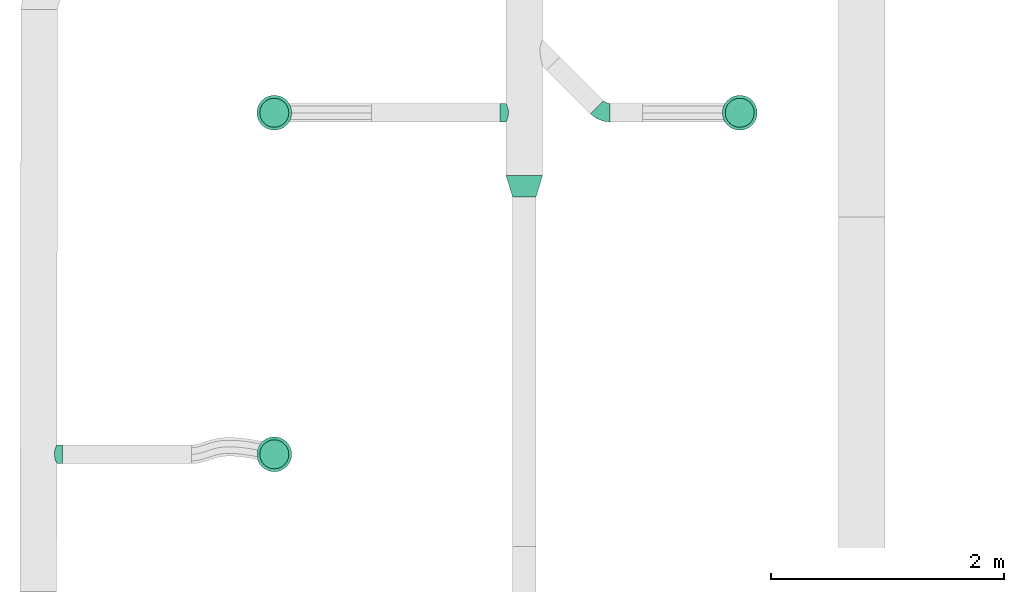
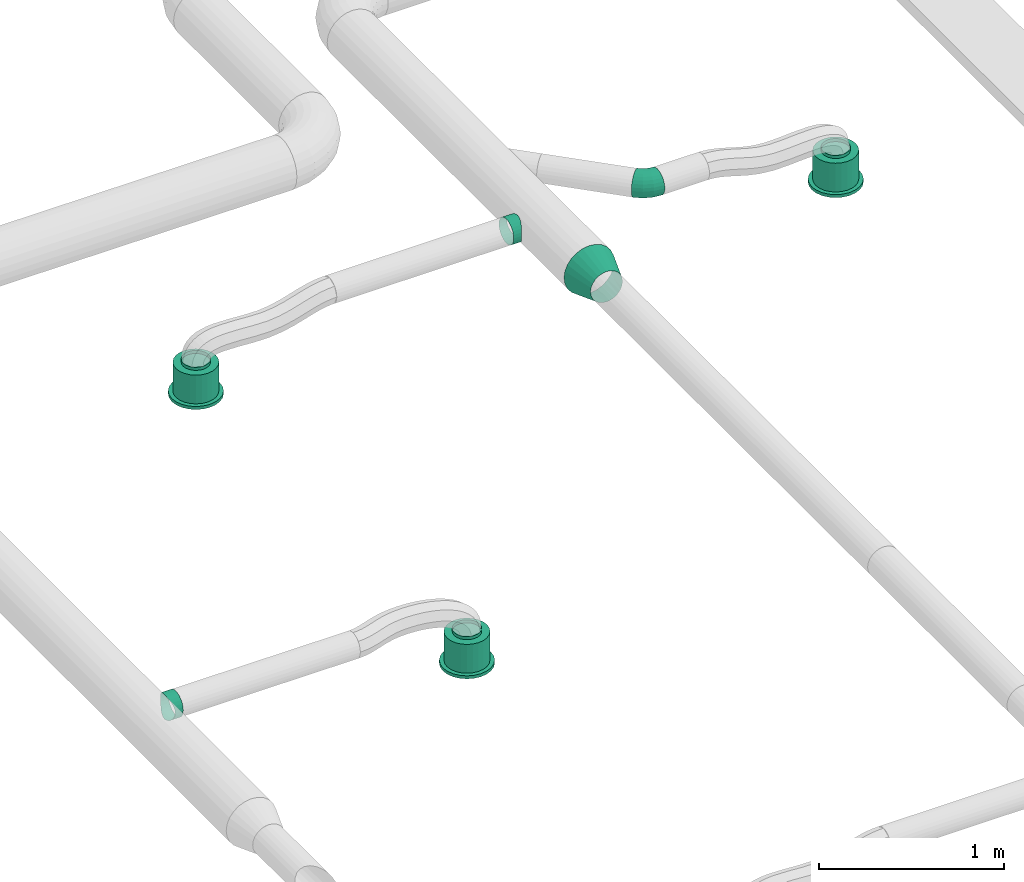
# One storey, part 10 of 119: 3 flow terminals, 2 flow fittings, 2 flow segments.
"""IFC2X3 building model written with IfcOpenShell, lengths in metres."""

from ifc_helpers import new_model, si_unit, direction, frame, origin, place, context, subcontext, project, spatial, open_shell, surface_model, source, transform, mapped, element, save


model = new_model("IFC2X3")

# Units and contexts
model_context = context("Model", 3, precision=1e-05, world=origin(), true_north=direction((-0.4480736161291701, 0.8939966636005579)))
body_context = subcontext(model_context, "Body", "Model", "MODEL_VIEW")
ifc_project = project(units=[si_unit("LENGTHUNIT", "METRE"), si_unit("AREAUNIT", "SQUARE_METRE"), si_unit("VOLUMEUNIT", "CUBIC_METRE"), si_unit("PLANEANGLEUNIT", "RADIAN"), si_unit("THERMODYNAMICTEMPERATUREUNIT", "KELVIN"), si_unit("MASSUNIT", "GRAM", prefix="KILO"), si_unit("TIMEUNIT", "SECOND")], contexts=[model_context])

# Site, building, storey
site_placement = place(None, origin())
site = spatial("IfcSite", under=ifc_project, at=site_placement, Name="Site 1", CompositionType="ELEMENT")
building_placement = place(site_placement, origin())
building = spatial("IfcBuilding", under=site, at=building_placement, Name="Undefined", CompositionType="ELEMENT")
storey_placement = place(building_placement, frame((0.0, 0.0, 5.4)))
storey = spatial("IfcBuildingStorey", under=building, at=storey_placement, Name="R+1", CompositionType="ELEMENT", Elevation=5.4)

# Flow terminals
shared_shape_1 = source(origin(), body_context, "Body", "SurfaceModel", [
    surface_model("IfcFaceBasedSurfaceModel", [(0.0, 0.0, 0.0), (0.03915785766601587, 0.0, 0.0), (0.03915785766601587, 0.020000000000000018, 0.0), (3.552713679e-15, 0.020000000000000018, 0.0), (0.07698144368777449, 0.0, -0.010134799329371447), (0.07698144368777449, 0.020000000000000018, -0.010134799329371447), (0.11089314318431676, 0.0, -0.02971372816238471), (0.11089314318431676, 0.020000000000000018, -0.02971372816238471), (0.13858192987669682, 0.0, -0.05740251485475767), (0.13858192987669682, 0.020000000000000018, -0.05740251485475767), (0.15816085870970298, 0.0, -0.09131421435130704), (0.15816085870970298, 0.020000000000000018, -0.09131421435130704), (0.16829565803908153, 0.0, -0.12913780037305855), (0.16829565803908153, 0.020000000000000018, -0.12913780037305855), (0.16829565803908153, 0.0, -0.16829565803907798), (0.16829565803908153, 0.020000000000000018, -0.16829565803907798), (0.15816085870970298, 0.0, -0.20611924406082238), (0.15816085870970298, 0.020000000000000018, -0.20611924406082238), (0.13858192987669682, 0.0, -0.24003094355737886), (0.13858192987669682, 0.020000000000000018, -0.24003094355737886), (0.11089314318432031, 0.0, -0.2677197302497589), (0.11089314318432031, 0.020000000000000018, -0.2677197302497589), (0.07698144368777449, 0.0, -0.2872986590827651), (0.07698144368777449, 0.020000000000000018, -0.2872986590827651), (0.039157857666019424, 0.0, -0.29743345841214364), (0.039157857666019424, 0.020000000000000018, -0.29743345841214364), (3.552713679e-15, 0.0, -0.29743345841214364), (3.552713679e-15, 0.020000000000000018, -0.29743345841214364), (-0.03782358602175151, 0.0, -0.2872986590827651), (-0.03782358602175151, 0.020000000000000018, -0.2872986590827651), (-0.07173528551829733, 0.0, -0.2677197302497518), (-0.07173528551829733, 0.020000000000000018, -0.2677197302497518), (-0.0994240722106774, 0.0, -0.24003094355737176), (-0.0994240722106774, 0.020000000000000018, -0.24003094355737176), (-0.11900300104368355, 0.0, -0.2061192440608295), (-0.11900300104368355, 0.020000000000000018, -0.2061192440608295), (-0.1291378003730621, 0.0, -0.16829565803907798), (-0.1291378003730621, 0.020000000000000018, -0.16829565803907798), (-0.1291378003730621, 0.0, -0.12913780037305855), (-0.1291378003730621, 0.020000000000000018, -0.12913780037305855), (-0.11900300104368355, 0.0, -0.09131421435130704), (-0.11900300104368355, 0.020000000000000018, -0.09131421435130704), (-0.0994240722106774, 0.0, -0.05740251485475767), (-0.0994240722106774, 0.020000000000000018, -0.05740251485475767), (-0.07173528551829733, 0.0, -0.029713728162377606), (-0.07173528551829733, 0.020000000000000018, -0.029713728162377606), (-0.03782358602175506, 0.0, -0.010134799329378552), (-0.03782358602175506, 0.020000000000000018, -0.010134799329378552), (0.019578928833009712, 0.0, -0.14871672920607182), (0.019578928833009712, 0.020000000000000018, -0.14871672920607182), (0.003263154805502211, 0.020000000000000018, -0.02478612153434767), (0.035894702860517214, 0.020000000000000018, -0.02478612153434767), (0.035894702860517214, 0.20999999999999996, -0.02478612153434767), (0.003263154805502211, 0.20999999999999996, -0.02478612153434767), (0.06741435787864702, 0.020000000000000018, -0.033231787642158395), (0.06741435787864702, 0.20999999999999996, -0.033231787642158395), (0.0956741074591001, 0.020000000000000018, -0.04954756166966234), (0.0956741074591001, 0.20999999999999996, -0.04954756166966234), (0.11874809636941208, 0.020000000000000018, -0.07262155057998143), (0.11874809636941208, 0.20999999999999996, -0.07262155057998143), (0.13506387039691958, 0.020000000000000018, -0.10088130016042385), (0.13506387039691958, 0.20999999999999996, -0.10088130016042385), (0.1435095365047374, 0.020000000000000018, -0.13240095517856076), (0.1435095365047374, 0.20999999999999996, -0.13240095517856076), (0.1435095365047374, 0.020000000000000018, -0.16503250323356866), (0.1435095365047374, 0.20999999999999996, -0.16503250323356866), (0.13506387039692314, 0.020000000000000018, -0.19655215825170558), (0.13506387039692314, 0.20999999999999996, -0.19655215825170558), (0.11874809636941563, 0.020000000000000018, -0.2248119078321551), (0.11874809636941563, 0.20999999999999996, -0.2248119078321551), (0.09567410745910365, 0.020000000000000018, -0.24788589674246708), (0.09567410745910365, 0.20999999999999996, -0.24788589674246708), (0.06741435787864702, 0.020000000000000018, -0.26420167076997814), (0.06741435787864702, 0.20999999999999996, -0.26420167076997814), (0.035894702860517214, 0.020000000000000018, -0.27264733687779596), (0.035894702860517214, 0.20999999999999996, -0.27264733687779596), (0.0032631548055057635, 0.020000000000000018, -0.27264733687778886), (0.0032631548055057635, 0.20999999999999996, -0.27264733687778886), (-0.028256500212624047, 0.020000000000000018, -0.26420167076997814), (-0.028256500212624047, 0.20999999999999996, -0.26420167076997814), (-0.05651624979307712, 0.020000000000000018, -0.2478858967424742), (-0.05651624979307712, 0.20999999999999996, -0.2478858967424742), (-0.07959023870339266, 0.020000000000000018, -0.2248119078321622), (-0.07959023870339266, 0.20999999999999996, -0.2248119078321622), (-0.09590601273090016, 0.020000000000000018, -0.19655215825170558), (-0.09590601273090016, 0.20999999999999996, -0.19655215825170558), (-0.10435167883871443, 0.020000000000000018, -0.16503250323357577), (-0.10435167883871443, 0.20999999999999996, -0.16503250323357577), (-0.10435167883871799, 0.020000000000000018, -0.13240095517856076), (-0.10435167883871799, 0.20999999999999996, -0.13240095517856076), (-0.09590601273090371, 0.020000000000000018, -0.10088130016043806), (-0.09590601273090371, 0.20999999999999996, -0.10088130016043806), (-0.07959023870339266, 0.020000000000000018, -0.07262155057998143), (-0.07959023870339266, 0.20999999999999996, -0.07262155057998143), (-0.056516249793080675, 0.020000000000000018, -0.04954756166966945), (-0.056516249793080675, 0.20999999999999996, -0.04954756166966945), (-0.028256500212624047, 0.020000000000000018, -0.033231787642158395), (-0.028256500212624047, 0.20999999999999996, -0.033231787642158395), (0.019578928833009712, 0.20999999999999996, -0.14871672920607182), (0.009136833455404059, 0.20999999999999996, -0.06940114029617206), (0.030021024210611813, 0.20999999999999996, -0.06940114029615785), (0.030021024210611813, 0.22999999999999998, -0.06940114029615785), (0.009136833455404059, 0.22999999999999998, -0.06940114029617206), (0.05019360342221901, 0.20999999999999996, -0.07480636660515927), (0.05019360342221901, 0.22999999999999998, -0.07480636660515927), (0.06827984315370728, 0.20999999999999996, -0.08524846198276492), (0.06827984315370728, 0.22999999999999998, -0.08524846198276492), (0.0830471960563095, 0.20999999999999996, -0.10001581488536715), (0.0830471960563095, 0.22999999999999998, -0.10001581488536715), (0.0934892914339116, 0.20999999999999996, -0.11810205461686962), (0.0934892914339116, 0.22999999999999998, -0.11810205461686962), (0.09889451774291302, 0.20999999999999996, -0.13827463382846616), (0.09889451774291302, 0.22999999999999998, -0.13827463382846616), (0.09889451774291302, 0.20999999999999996, -0.15915882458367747), (0.09889451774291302, 0.22999999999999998, -0.15915882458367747), (0.09348929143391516, 0.20999999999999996, -0.179331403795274), (0.09348929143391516, 0.22999999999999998, -0.179331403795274), (0.0830471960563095, 0.20999999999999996, -0.19741764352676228), (0.0830471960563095, 0.22999999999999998, -0.19741764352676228), (0.06827984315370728, 0.20999999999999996, -0.2121849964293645), (0.06827984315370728, 0.22999999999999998, -0.2121849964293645), (0.05019360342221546, 0.20999999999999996, -0.22262709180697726), (0.05019360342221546, 0.22999999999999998, -0.22262709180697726), (0.030021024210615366, 0.20999999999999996, -0.22803231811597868), (0.030021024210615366, 0.22999999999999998, -0.22803231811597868), (0.009136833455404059, 0.20999999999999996, -0.22803231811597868), (0.009136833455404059, 0.22999999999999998, -0.22803231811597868), (-0.011035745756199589, 0.20999999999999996, -0.22262709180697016), (-0.011035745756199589, 0.22999999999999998, -0.22262709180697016), (-0.0291219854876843, 0.20999999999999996, -0.2121849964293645), (-0.0291219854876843, 0.22999999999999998, -0.2121849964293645), (-0.043889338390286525, 0.20999999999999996, -0.19741764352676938), (-0.043889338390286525, 0.22999999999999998, -0.19741764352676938), (-0.05433143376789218, 0.20999999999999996, -0.17933140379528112), (-0.05433143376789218, 0.22999999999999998, -0.17933140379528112), (-0.05973666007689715, 0.20999999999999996, -0.15915882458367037), (-0.05973666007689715, 0.22999999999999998, -0.15915882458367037), (-0.0597366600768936, 0.20999999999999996, -0.13827463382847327), (-0.0597366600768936, 0.22999999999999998, -0.13827463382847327), (-0.05433143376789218, 0.20999999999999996, -0.11810205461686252), (-0.05433143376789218, 0.22999999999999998, -0.11810205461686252), (-0.043889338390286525, 0.20999999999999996, -0.10001581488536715), (-0.043889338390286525, 0.22999999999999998, -0.10001581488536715), (-0.02912198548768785, 0.20999999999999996, -0.08524846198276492), (-0.02912198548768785, 0.22999999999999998, -0.08524846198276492), (-0.011035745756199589, 0.20999999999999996, -0.07480636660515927), (-0.011035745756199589, 0.22999999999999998, -0.07480636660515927)], [open_shell([[[0, 1, 2, 3]], [[1, 4, 5, 2]], [[4, 6, 7, 5]], [[6, 8, 9, 7]], [[8, 10, 11, 9]], [[10, 12, 13, 11]], [[12, 14, 15, 13]], [[14, 16, 17, 15]], [[16, 18, 19, 17]], [[18, 20, 21, 19]], [[20, 22, 23, 21]], [[22, 24, 25, 23]], [[24, 26, 27, 25]], [[26, 28, 29, 27]], [[28, 30, 31, 29]], [[30, 32, 33, 31]], [[32, 34, 35, 33]], [[34, 36, 37, 35]], [[36, 38, 39, 37]], [[38, 40, 41, 39]], [[40, 42, 43, 41]], [[42, 44, 45, 43]], [[44, 46, 47, 45]], [[46, 0, 3, 47]], [[48, 1, 0]], [[48, 4, 1]], [[48, 6, 4]], [[48, 8, 6]], [[48, 10, 8]], [[48, 12, 10]], [[48, 14, 12]], [[48, 16, 14]], [[48, 18, 16]], [[48, 20, 18]], [[48, 22, 20]], [[48, 24, 22]], [[48, 26, 24]], [[48, 28, 26]], [[48, 30, 28]], [[48, 32, 30]], [[48, 34, 32]], [[48, 36, 34]], [[48, 38, 36]], [[48, 40, 38]], [[48, 42, 40]], [[48, 44, 42]], [[48, 46, 44]], [[48, 0, 46]], [[49, 47, 3]], [[49, 45, 47]], [[49, 43, 45]], [[49, 41, 43]], [[49, 39, 41]], [[49, 37, 39]], [[49, 35, 37]], [[49, 33, 35]], [[49, 31, 33]], [[49, 29, 31]], [[49, 27, 29]], [[49, 25, 27]], [[49, 23, 25]], [[49, 21, 23]], [[49, 19, 21]], [[49, 17, 19]], [[49, 15, 17]], [[49, 13, 15]], [[49, 11, 13]], [[49, 9, 11]], [[49, 7, 9]], [[49, 5, 7]], [[49, 2, 5]], [[49, 3, 2]], [[50, 51, 52, 53]], [[51, 54, 55, 52]], [[54, 56, 57, 55]], [[56, 58, 59, 57]], [[58, 60, 61, 59]], [[60, 62, 63, 61]], [[62, 64, 65, 63]], [[64, 66, 67, 65]], [[66, 68, 69, 67]], [[68, 70, 71, 69]], [[70, 72, 73, 71]], [[72, 74, 75, 73]], [[74, 76, 77, 75]], [[76, 78, 79, 77]], [[78, 80, 81, 79]], [[80, 82, 83, 81]], [[82, 84, 85, 83]], [[84, 86, 87, 85]], [[86, 88, 89, 87]], [[88, 90, 91, 89]], [[90, 92, 93, 91]], [[92, 94, 95, 93]], [[94, 96, 97, 95]], [[96, 50, 53, 97]], [[49, 51, 50]], [[49, 54, 51]], [[49, 56, 54]], [[49, 58, 56]], [[49, 60, 58]], [[49, 62, 60]], [[49, 64, 62]], [[49, 66, 64]], [[49, 68, 66]], [[49, 70, 68]], [[49, 72, 70]], [[49, 74, 72]], [[49, 76, 74]], [[49, 78, 76]], [[49, 80, 78]], [[49, 82, 80]], [[49, 84, 82]], [[49, 86, 84]], [[49, 88, 86]], [[49, 90, 88]], [[49, 92, 90]], [[49, 94, 92]], [[49, 96, 94]], [[49, 50, 96]], [[98, 97, 53]], [[98, 95, 97]], [[98, 93, 95]], [[98, 91, 93]], [[98, 89, 91]], [[98, 87, 89]], [[98, 85, 87]], [[98, 83, 85]], [[98, 81, 83]], [[98, 79, 81]], [[98, 77, 79]], [[98, 75, 77]], [[98, 73, 75]], [[98, 71, 73]], [[98, 69, 71]], [[98, 67, 69]], [[98, 65, 67]], [[98, 63, 65]], [[98, 61, 63]], [[98, 59, 61]], [[98, 57, 59]], [[98, 55, 57]], [[98, 52, 55]], [[98, 53, 52]], [[99, 100, 101, 102]], [[100, 103, 104, 101]], [[103, 105, 106, 104]], [[105, 107, 108, 106]], [[107, 109, 110, 108]], [[109, 111, 112, 110]], [[111, 113, 114, 112]], [[113, 115, 116, 114]], [[115, 117, 118, 116]], [[117, 119, 120, 118]], [[119, 121, 122, 120]], [[121, 123, 124, 122]], [[123, 125, 126, 124]], [[125, 127, 128, 126]], [[127, 129, 130, 128]], [[129, 131, 132, 130]], [[131, 133, 134, 132]], [[133, 135, 136, 134]], [[135, 137, 138, 136]], [[137, 139, 140, 138]], [[139, 141, 142, 140]], [[141, 143, 144, 142]], [[143, 145, 146, 144]], [[145, 99, 102, 146]]])]),
])
flow_terminal_1_placement = place(storey_placement, origin())
element("IfcFlowTerminal", 1, at=flow_terminal_1_placement, inside=storey, Name="Air diffuseur - bouche", ObjectType="Air diffuseur - bouche", context=body_context, shape_type="MappedRepresentation", body=[
    mapped(shared_shape_1, transform((4.463314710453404, 16.925483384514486, 2.38), x_axis=(-0.13052619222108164, 0.9914448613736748, 0.0), y_axis=(0.0, 0.0, 1.0), z_axis=(0.9914448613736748, 0.13052619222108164, 0.0))),
])
flow_terminal_2_placement = place(storey_placement, origin())
element("IfcFlowTerminal", 2, at=flow_terminal_2_placement, inside=storey, Name="Air diffuseur - bouche", ObjectType="Air diffuseur - bouche", context=body_context, shape_type="MappedRepresentation", body=[
    mapped(shared_shape_1, transform((8.163314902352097, 16.92548387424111, 2.38), x_axis=(0.13052619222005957, -0.9914448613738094, 0.0), y_axis=(0.0, 0.0, 1.0), z_axis=(-0.9914448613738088, -0.13052619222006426, 0.0))),
])
flow_terminal_3_placement = place(storey_placement, origin())
element("IfcFlowTerminal", 3, at=flow_terminal_3_placement, inside=storey, Name="Air diffuseur - bouche", ObjectType="Air diffuseur - bouche", context=body_context, shape_type="MappedRepresentation", body=[
    mapped(shared_shape_1, transform((4.463314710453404, 13.990298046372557, 2.38), x_axis=(-0.13052619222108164, 0.9914448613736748, 0.0), y_axis=(0.0, 0.0, 1.0), z_axis=(0.9914448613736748, 0.13052619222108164, 0.0))),
])

# Flow segments
shared_shape_2 = source(origin(), body_context, "Body", "SurfaceModel", [
    surface_model("IfcFaceBasedSurfaceModel", [(0.0013669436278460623, 0.02088419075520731, 0.0), (0.0, 0.0, 0.0), (0.05136694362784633, -8.8817842e-16, 0.0), (0.05136694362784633, 0.02088419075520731, 0.0), (-0.0037970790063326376, -0.020172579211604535, -0.005405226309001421), (0.05136694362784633, -0.020172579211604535, -0.005405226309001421), (-0.009142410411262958, -0.03825881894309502, -0.015847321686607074), (0.05136694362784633, -0.03825881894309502, -0.015847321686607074), (-0.014689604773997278, -0.05302617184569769, -0.030614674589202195), (0.05136694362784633, -0.05302617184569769, -0.030614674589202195), (-0.018892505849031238, -0.06346826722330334, -0.04870091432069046), (0.05136694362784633, -0.06346826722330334, -0.04870091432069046), (-0.020463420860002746, -0.06887349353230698, -0.0688734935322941), (0.05136694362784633, -0.06887349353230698, -0.0688734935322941), (-0.018892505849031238, -0.06887349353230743, -0.08975768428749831), (0.05136694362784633, -0.06887349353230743, -0.08975768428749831), (-0.014689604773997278, -0.06346826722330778, -0.10993026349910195), (0.05136694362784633, -0.06346826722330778, -0.10993026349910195), (-0.009142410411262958, -0.05302617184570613, -0.12801650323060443), (0.05136694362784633, -0.05302617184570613, -0.12801650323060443), (-0.0037970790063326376, -0.03825881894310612, -0.14278385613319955), (0.05136694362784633, -0.03825881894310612, -0.14278385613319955), (0.0, -0.020172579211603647, -0.15322595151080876), (0.05136694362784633, -0.020172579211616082, -0.1532259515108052), (0.0013669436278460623, -1.3766765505e-14, -0.15863117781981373), (0.05136694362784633, -1.3766765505e-14, -0.15863117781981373), (0.0, 0.020884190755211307, -0.15863117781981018), (0.05136694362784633, 0.02088419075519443, -0.15863117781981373), (-0.0037970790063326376, 0.041056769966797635, -0.1532259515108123), (0.05136694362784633, 0.041056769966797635, -0.1532259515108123), (-0.009142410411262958, 0.05914300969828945, -0.14278385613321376), (0.05136694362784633, 0.05914300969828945, -0.14278385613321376), (-0.014689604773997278, 0.07391036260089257, -0.12801650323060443), (0.05136694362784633, 0.07391036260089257, -0.12801650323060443), (-0.018892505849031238, 0.08435245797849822, -0.10993026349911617), (0.05136694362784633, 0.08435245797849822, -0.10993026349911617), (-0.020463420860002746, 0.08975768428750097, -0.08975768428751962), (0.05136694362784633, 0.08975768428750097, -0.08975768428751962), (-0.018892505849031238, 0.0897576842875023, -0.06887349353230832), (0.05136694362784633, 0.0897576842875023, -0.06887349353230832), (-0.014689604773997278, 0.08435245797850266, -0.04870091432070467), (0.05136694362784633, 0.08435245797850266, -0.04870091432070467), (-0.009142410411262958, 0.07391036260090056, -0.030614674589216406), (0.05136694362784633, 0.07391036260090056, -0.030614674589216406), (-0.0037970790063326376, 0.05914300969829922, -0.01584732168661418), (0.05136694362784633, 0.05914300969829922, -0.01584732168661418), (0.0, 0.04105676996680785, -0.005405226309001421), (0.05136694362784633, 0.04105676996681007, -0.005405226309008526)], [open_shell([[[0, 1, 2, 3]], [[1, 4, 5, 2]], [[4, 6, 7, 5]], [[6, 8, 9, 7]], [[8, 10, 11, 9]], [[10, 12, 13, 11]], [[12, 14, 15, 13]], [[14, 16, 17, 15]], [[16, 18, 19, 17]], [[18, 20, 21, 19]], [[20, 22, 23, 21]], [[22, 24, 25, 23]], [[24, 26, 27, 25]], [[26, 28, 29, 27]], [[28, 30, 31, 29]], [[30, 32, 33, 31]], [[32, 34, 35, 33]], [[34, 36, 37, 35]], [[36, 38, 39, 37]], [[38, 40, 41, 39]], [[40, 42, 43, 41]], [[42, 44, 45, 43]], [[44, 46, 47, 45]], [[46, 0, 3, 47]]])]),
])
flow_segment_1_placement = place(storey_placement, origin())
element("IfcFlowSegment", 4, at=flow_segment_1_placement, inside=storey, Name="Piquage équerre circulaire", ObjectType="Piquage équerre circulaire", context=body_context, shape_type="MappedRepresentation", body=[
    mapped(shared_shape_2, transform((6.305529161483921, 16.848209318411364, 2.7957055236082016), x_axis=(-1.0, 0.0, 0.0), y_axis=(9.56658874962e-13, -0.13052619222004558, -0.9914448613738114), z_axis=(7.266545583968e-12, -0.9914448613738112, 0.13052619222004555))),
])
flow_segment_2_placement = place(storey_placement, origin())
element("IfcFlowSegment", 5, at=flow_segment_2_placement, inside=storey, Name="Piquage équerre circulaire", ObjectType="Piquage équerre circulaire", context=body_context, shape_type="MappedRepresentation", body=[
    mapped(shared_shape_2, transform((2.4437755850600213, 13.915043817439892, 2.7292944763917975), x_axis=(0.9999984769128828, -0.0017453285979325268, 0.0), y_axis=(-0.00022781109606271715, -0.13052599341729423, 0.9914448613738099), z_axis=(-0.0017303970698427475, -0.991443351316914, -0.13052619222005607))),
])

# Flow fittings
shared_shape_3 = source(origin(), body_context, "Body", "SurfaceModel", [
    surface_model("IfcFaceBasedSurfaceModel", [(0.0015696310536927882, 0.04108577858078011, 0.0), (0.0, 0.0, 0.0), (0.19659666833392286, 0.0, 1.776356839e-15), (0.19759325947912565, 0.026086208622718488, 3.552713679e-15), (0.0015696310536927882, -0.03980370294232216, -0.010183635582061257), (0.19759325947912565, -0.025272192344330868, -0.00646580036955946), (0.0061715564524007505, -0.07561277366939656, -0.02985690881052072), (0.2005151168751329, -0.04800811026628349, -0.018956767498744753), (0.013492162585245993, -0.10498688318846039, -0.05767911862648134), (0.20516312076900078, -0.06665833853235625, -0.03662166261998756), (0.02303256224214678, -0.12592423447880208, -0.09175422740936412), (0.21122051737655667, -0.07995189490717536, -0.05825665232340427), (0.03414259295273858, -0.13699798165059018, -0.129760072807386), (0.21827450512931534, -0.08698284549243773, -0.08238734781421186), (0.04606512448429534, -0.1374534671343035, -0.16910661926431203), (0.22584436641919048, -0.0872720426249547, -0.10736928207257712), (0.05798765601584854, -0.12725965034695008, -0.20711246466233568), (0.2334142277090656, -0.08079977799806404, -0.1314999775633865), (0.06909768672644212, -0.10711122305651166, -0.24118757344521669), (0.2404682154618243, -0.06800712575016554, -0.1531349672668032), (0.07863808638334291, -0.0783812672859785, -0.2690097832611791), (0.24652561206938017, -0.04976588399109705, -0.17079986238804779), (0.08595869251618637, -0.04302768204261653, -0.2886830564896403), (0.25117361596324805, -0.0273191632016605, -0.18329082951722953), (0.09056061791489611, -0.003459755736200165, -0.29886669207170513), (0.2540954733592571, -0.002196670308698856, -0.1897566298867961), (0.09213024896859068, 0.037626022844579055, -0.29886669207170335), (0.2550920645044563, 0.02388953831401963, -0.18975662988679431), (0.09056061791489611, 0.07742972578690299, -0.2886830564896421), (0.2540954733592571, 0.04916173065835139, -0.18329082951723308), (0.08595869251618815, 0.11323879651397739, -0.26900978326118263), (0.25117361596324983, 0.07189764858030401, -0.17079986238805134), (0.07863808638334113, 0.14261290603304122, -0.24118757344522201), (0.24652561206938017, 0.09054787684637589, -0.15313496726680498), (0.06909768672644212, 0.16355025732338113, -0.207112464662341), (0.2404682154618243, 0.10384143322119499, -0.13149997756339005), (0.05798765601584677, 0.1746240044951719, -0.16910661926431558), (0.2334142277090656, 0.11087238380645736, -0.1073692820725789), (0.04606512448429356, 0.17507948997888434, -0.1297600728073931), (0.22584436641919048, 0.11116158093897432, -0.08238734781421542), (0.03414259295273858, 0.1648856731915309, -0.09175422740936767), (0.21827450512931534, 0.10468931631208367, -0.058256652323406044), (0.02303256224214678, 0.1447372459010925, -0.05767911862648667), (0.21122051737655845, 0.09189666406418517, -0.03662166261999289), (0.013492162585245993, 0.11600729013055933, -0.029856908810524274), (0.20516312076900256, 0.07365542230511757, -0.018956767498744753), (0.006171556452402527, 0.08065370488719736, -0.010183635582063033), (0.20051511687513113, 0.05120870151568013, -0.006465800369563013)], [open_shell([[[0, 1, 2, 3]], [[1, 4, 5, 2]], [[4, 6, 7, 5]], [[6, 8, 9, 7]], [[8, 10, 11, 9]], [[10, 12, 13, 11]], [[12, 14, 15, 13]], [[14, 16, 17, 15]], [[16, 18, 19, 17]], [[18, 20, 21, 19]], [[20, 22, 23, 21]], [[22, 24, 25, 23]], [[24, 26, 27, 25]], [[26, 28, 29, 27]], [[28, 30, 31, 29]], [[30, 32, 33, 31]], [[32, 34, 35, 33]], [[34, 36, 37, 35]], [[36, 38, 39, 37]], [[38, 40, 41, 39]], [[40, 42, 43, 41]], [[42, 44, 45, 43]], [[44, 46, 47, 45]], [[46, 0, 3, 47]]])]),
])
flow_fitting_1_placement = place(storey_placement, origin())
element("IfcFlowFitting", 6, at=flow_fitting_1_placement, inside=storey, Name="Réduction conique", ObjectType="Réduction conique", context=body_context, shape_type="MappedRepresentation", body=[
    mapped(shared_shape_3, transform((6.309528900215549, 16.388018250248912, 2.7342360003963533), x_axis=(0.2825110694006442, -0.9562725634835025, 0.07569861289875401), y_axis=(-0.14141439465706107, 0.036533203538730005, 0.9892761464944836), z_axis=(-0.9487831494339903, -0.2901863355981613, -0.12490967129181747))),
])
shared_shape_4 = source(origin(), body_context, "Body", "SurfaceModel", [
    surface_model("IfcFaceBasedSurfaceModel", [(0.06265257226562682, -8.8817842e-16, 0.0), (0.062296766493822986, 0.02088115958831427, -7.105427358e-15), (0.0003558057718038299, 0.020881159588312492, 7.105427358e-15), (0.0, 0.0, 0.0), (-0.059474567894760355, 0.022956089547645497, -0.015896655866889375), (-0.06051773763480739, 0.002098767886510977, -0.01607928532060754), (-0.11311701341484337, 0.02696454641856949, -0.04660663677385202), (-0.11477645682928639, 0.006153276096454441, -0.04714207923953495), (0.061253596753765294, 0.04103889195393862, -0.0053597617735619), (0.0013989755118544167, 0.04103889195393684, -0.005359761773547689), (-0.05641614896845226, 0.04304393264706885, -0.02072097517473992), (-0.10825177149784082, 0.04691737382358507, -0.050396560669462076), (0.05959415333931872, 0.05909948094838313, -0.01571402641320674), (0.003058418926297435, 0.05909948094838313, -0.01571402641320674), (-0.05155090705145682, 0.06099334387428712, -0.030223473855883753), (-0.10051228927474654, 0.06465200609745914, -0.058253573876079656), (0.057431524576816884, 0.07383212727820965, -0.030357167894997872), (0.005221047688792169, 0.07383212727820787, -0.03035716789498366), (-0.0452104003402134, 0.07558110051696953, -0.04375657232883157), (-0.09042599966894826, 0.07895985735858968, -0.06964223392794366), (0.054913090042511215, 0.0842328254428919, -0.048291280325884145), (0.007739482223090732, 0.08423282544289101, -0.04829128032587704), (-0.037826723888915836, 0.08581307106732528, -0.06039801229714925), (-0.07868026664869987, 0.08886587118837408, -0.08378642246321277), (0.05221047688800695, 0.0895927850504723, -0.06829418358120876), (0.010442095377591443, 0.08959278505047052, -0.06829418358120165), (-0.029903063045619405, 0.09099196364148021, -0.07901370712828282), (-0.06607554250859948, 0.09369496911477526, -0.0997222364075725), (0.04950786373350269, 0.08954673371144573, -0.08900271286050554), (0.013144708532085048, 0.08954673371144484, -0.08900271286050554), (-0.02197940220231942, 0.09076484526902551, -0.09833502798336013), (-0.05347081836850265, 0.09311805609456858, -0.11636367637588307), (0.04698942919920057, 0.08409780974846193, -0.10900561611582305), (0.015663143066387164, 0.08409780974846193, -0.10900561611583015), (-0.014595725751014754, 0.08514719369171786, -0.11704525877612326), (-0.0417250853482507, 0.0871744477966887, -0.13257665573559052), (0.04482680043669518, 0.0736173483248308, -0.12693972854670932), (0.017825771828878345, 0.0736173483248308, -0.12693972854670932), (-0.008255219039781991, 0.07452184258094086, -0.13386932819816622), (-0.03163879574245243, 0.0762691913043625, -0.14725628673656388), (0.04316735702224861, 0.058819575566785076, -0.14158287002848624), (0.019485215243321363, 0.058819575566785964, -0.14158287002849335), (-0.0033899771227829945, 0.05961289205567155, -0.14766070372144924), (-0.02389931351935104, 0.06114546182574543, -0.15940217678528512), (0.04212418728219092, 0.040712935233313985, -0.15193713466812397), (0.020528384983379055, 0.040712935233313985, -0.15193713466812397), (-0.0003315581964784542, 0.041436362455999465, -0.15747952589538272), (-0.019034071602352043, 0.04283391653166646, -0.16818660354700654), (0.04176838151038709, 0.02053136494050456, -0.15729689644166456), (0.020884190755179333, 0.02053136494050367, -0.15729689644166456), (0.0007116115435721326, 0.021230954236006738, -0.16265665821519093), (-0.017374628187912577, 0.022582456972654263, -0.17301092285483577), (0.04212418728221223, -0.000349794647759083, -0.15729689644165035), (0.020528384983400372, -0.000349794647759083, -0.15729689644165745), (-0.0003315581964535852, 0.00037363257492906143, -0.1628392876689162), (-0.019034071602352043, 0.0017711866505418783, -0.17354636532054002), (0.04316735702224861, -0.020507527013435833, -0.15193713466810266), (0.019485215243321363, -0.020507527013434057, -0.15193713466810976), (-0.0033899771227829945, -0.019714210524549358, -0.15801496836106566), (-0.02389931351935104, -0.01818164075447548, -0.16975644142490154), (0.04482680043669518, -0.03856811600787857, -0.1415828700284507), (0.017825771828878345, -0.03856811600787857, -0.1415828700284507), (-0.008255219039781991, -0.03766362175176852, -0.1485124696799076), (-0.03163879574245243, -0.03591627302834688, -0.16189942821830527), (0.04698942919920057, -0.05330076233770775, -0.12693972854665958), (0.015663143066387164, -0.05330076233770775, -0.12693972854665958), (-0.014595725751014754, -0.05225137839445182, -0.1349793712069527), (-0.0417250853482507, -0.05022412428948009, -0.15051076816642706), (0.04950786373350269, -0.06370146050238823, -0.10900561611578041), (0.013144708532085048, -0.06370146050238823, -0.10900561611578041), (-0.02197940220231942, -0.06248334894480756, -0.11833793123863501), (-0.05347081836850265, -0.06013013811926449, -0.13636657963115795), (0.05221047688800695, -0.06906142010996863, -0.08900271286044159), (0.010442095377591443, -0.06906142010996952, -0.08900271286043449), (-0.029903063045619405, -0.06766224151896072, -0.09972223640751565), (-0.06607554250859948, -0.06495923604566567, -0.12043076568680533), (0.054913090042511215, -0.06901536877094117, -0.06829418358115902), (0.007739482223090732, -0.06901536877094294, -0.06829418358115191), (-0.037826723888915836, -0.06743512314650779, -0.08040091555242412), (-0.07868026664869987, -0.06438232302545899, -0.10378932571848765), (0.057431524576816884, -0.06356644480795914, -0.0482912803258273), (0.005221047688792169, -0.06356644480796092, -0.04829128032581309), (-0.0452104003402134, -0.061817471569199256, -0.0616906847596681), (-0.09042599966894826, -0.05843871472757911, -0.0875763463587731), (0.05959415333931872, -0.05308598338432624, -0.030357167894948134), (0.003058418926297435, -0.05308598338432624, -0.030357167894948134), (-0.05155090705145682, -0.05119212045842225, -0.04486661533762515), (-0.10051228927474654, -0.04753345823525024, -0.07289671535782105), (0.061253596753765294, -0.03828821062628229, -0.015714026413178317), (0.0013989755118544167, -0.03828821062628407, -0.015714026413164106), (-0.05641614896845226, -0.03628316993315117, -0.031075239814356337), (-0.10825177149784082, -0.03240972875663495, -0.06075082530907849), (0.062296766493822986, -0.020181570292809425, -0.005359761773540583), (0.0003558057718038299, -0.020181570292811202, -0.0053597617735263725), (-0.059474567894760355, -0.018106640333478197, -0.021256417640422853), (-0.11311701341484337, -0.014098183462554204, -0.051966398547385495)], [open_shell([[[0, 1, 2, 3]], [[3, 2, 4, 5]], [[5, 4, 6, 7]], [[1, 8, 9, 2]], [[2, 9, 10, 4]], [[4, 10, 11, 6]], [[8, 12, 13, 9]], [[9, 13, 14, 10]], [[10, 14, 15, 11]], [[12, 16, 17, 13]], [[13, 17, 18, 14]], [[14, 18, 19, 15]], [[16, 20, 21, 17]], [[17, 21, 22, 18]], [[18, 22, 23, 19]], [[20, 24, 25, 21]], [[21, 25, 26, 22]], [[22, 26, 27, 23]], [[24, 28, 29, 25]], [[25, 29, 30, 26]], [[26, 30, 31, 27]], [[28, 32, 33, 29]], [[29, 33, 34, 30]], [[30, 34, 35, 31]], [[32, 36, 37, 33]], [[33, 37, 38, 34]], [[34, 38, 39, 35]], [[36, 40, 41, 37]], [[37, 41, 42, 38]], [[38, 42, 43, 39]], [[40, 44, 45, 41]], [[41, 45, 46, 42]], [[42, 46, 47, 43]], [[44, 48, 49, 45]], [[45, 49, 50, 46]], [[46, 50, 51, 47]], [[48, 52, 53, 49]], [[49, 53, 54, 50]], [[50, 54, 55, 51]], [[52, 56, 57, 53]], [[53, 57, 58, 54]], [[54, 58, 59, 55]], [[56, 60, 61, 57]], [[57, 61, 62, 58]], [[58, 62, 63, 59]], [[60, 64, 65, 61]], [[61, 65, 66, 62]], [[62, 66, 67, 63]], [[64, 68, 69, 65]], [[65, 69, 70, 66]], [[66, 70, 71, 67]], [[68, 72, 73, 69]], [[69, 73, 74, 70]], [[70, 74, 75, 71]], [[72, 76, 77, 73]], [[73, 77, 78, 74]], [[74, 78, 79, 75]], [[76, 80, 81, 77]], [[77, 81, 82, 78]], [[78, 82, 83, 79]], [[80, 84, 85, 81]], [[81, 85, 86, 82]], [[82, 86, 87, 83]], [[84, 88, 89, 85]], [[85, 89, 90, 86]], [[86, 90, 91, 87]], [[88, 92, 93, 89]], [[89, 93, 94, 90]], [[90, 94, 95, 91]], [[92, 0, 3, 93]], [[93, 3, 5, 94]], [[94, 5, 7, 95]]])]),
])
flow_fitting_2_placement = place(storey_placement, origin())
element("IfcFlowFitting", 7, at=flow_fitting_2_placement, inside=storey, Name="Coude", ObjectType="Coude", context=body_context, shape_type="MappedRepresentation", body=[
    mapped(shared_shape_4, transform((7.0793608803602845, 16.877637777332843, 2.775), x_axis=(-0.7933533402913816, 0.6087614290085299, 0.0), y_axis=(0.07879096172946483, 0.10268238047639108, -0.9915887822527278), z_axis=(-0.603641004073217, -0.7866802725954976, -0.1294283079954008))),
])

save(model, "model.ifc")
